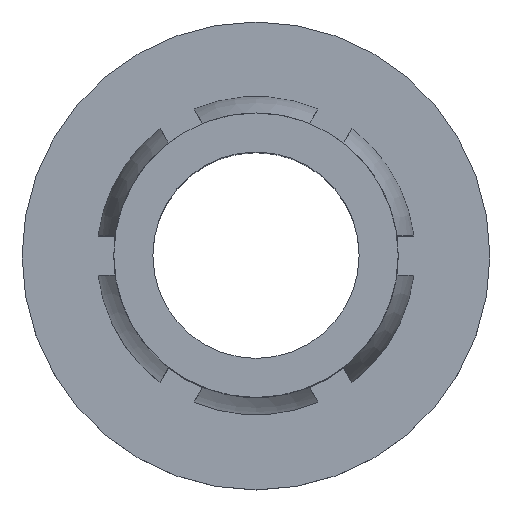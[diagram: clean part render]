
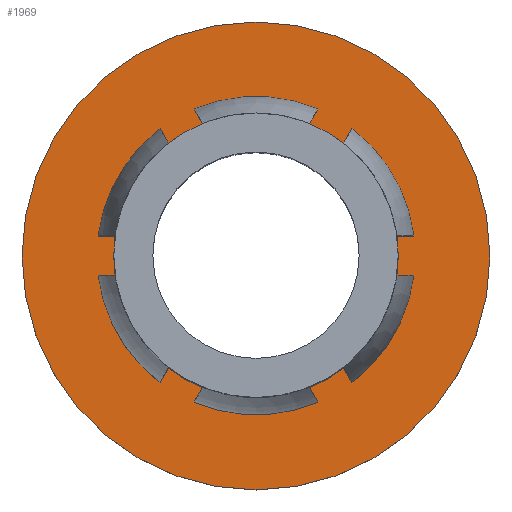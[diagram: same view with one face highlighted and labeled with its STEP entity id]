
A CAD part, top view. The second image highlights one B-rep face of the part: STEP entity #1969.
In plain terms, the highlighted planar face has unit normal (0, 0, 1).
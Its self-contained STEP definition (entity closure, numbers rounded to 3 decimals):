
#97 = DIRECTION ( 'NONE',  ( -1., 0., 0. ) ) ;
#335 = CARTESIAN_POINT ( 'NONE',  ( 8.227, 0., -19.786 ) ) ;
#347 = DIRECTION ( 'NONE',  ( 0., 0., -1. ) ) ;
#350 = EDGE_CURVE ( 'NONE', #401, #401, #731, .T. ) ;
#355 = DIRECTION ( 'NONE',  ( -1., 0., 0. ) ) ;
#397 = ORIENTED_EDGE ( 'NONE', *, *, #624, .F. ) ;
#401 = VERTEX_POINT ( 'NONE', #1838 ) ;
#432 = AXIS2_PLACEMENT_3D ( 'NONE', #1500, #1351, #1317 ) ;
#583 = AXIS2_PLACEMENT_3D ( 'NONE', #335, #347, #355 ) ;
#624 = EDGE_CURVE ( 'NONE', #2307, #2307, #658, .T. ) ;
#658 = CIRCLE ( 'NONE', #432, 4.763 ) ;
#731 = CIRCLE ( 'NONE', #583, 2.896 ) ;
#809 = EDGE_LOOP ( 'NONE', ( #397 ) ) ;
#898 = DIRECTION ( 'NONE',  ( 0., 0., -1. ) ) ;
#907 = CARTESIAN_POINT ( 'NONE',  ( 12.989, 0., -19.786 ) ) ;
#972 = AXIS2_PLACEMENT_3D ( 'NONE', #907, #898, #97 ) ;
#1017 = EDGE_LOOP ( 'NONE', ( #1578 ) ) ;
#1277 = FACE_BOUND ( 'NONE', #1017, .T. ) ;
#1317 = DIRECTION ( 'NONE',  ( -1., 0., 0. ) ) ;
#1333 = FACE_OUTER_BOUND ( 'NONE', #809, .T. ) ;
#1351 = DIRECTION ( 'NONE',  ( 0., 0., -1. ) ) ;
#1500 = CARTESIAN_POINT ( 'NONE',  ( 8.227, 0., -19.786 ) ) ;
#1578 = ORIENTED_EDGE ( 'NONE', *, *, #350, .T. ) ;
#1651 = CARTESIAN_POINT ( 'NONE',  ( 3.464, 0., -19.786 ) ) ;
#1838 = CARTESIAN_POINT ( 'NONE',  ( 5.331, 0., -19.786 ) ) ;
#1969 = ADVANCED_FACE ( 'NONE', ( #1277, #1333 ), #2402, .F. ) ;
#2307 = VERTEX_POINT ( 'NONE', #1651 ) ;
#2402 = PLANE ( 'NONE',  #972 ) ;
